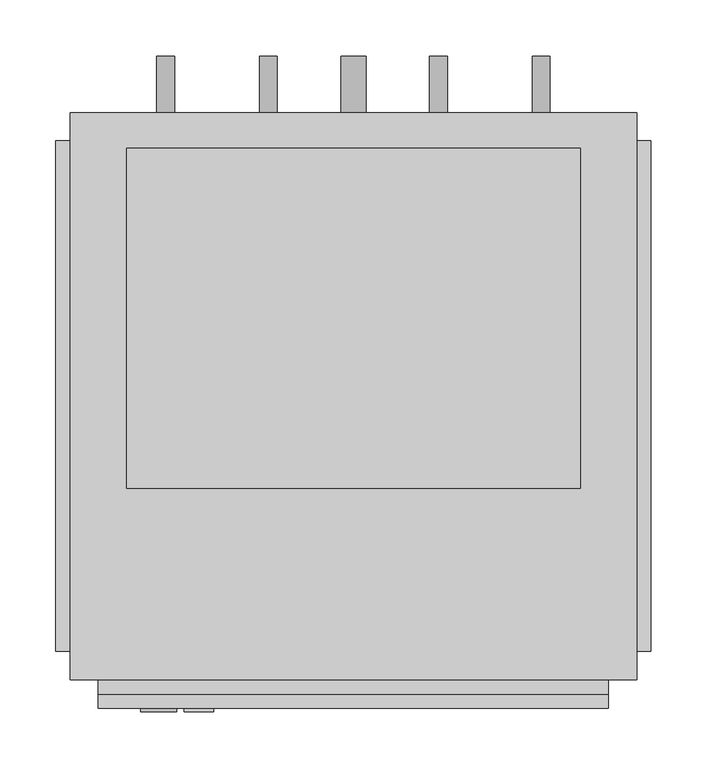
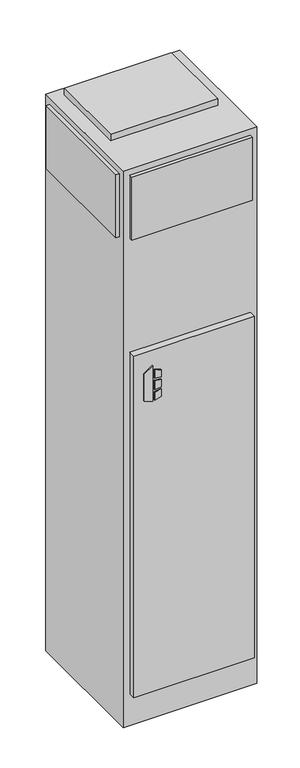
"""IFC4 building model written with IfcOpenShell, lengths in millimetres: proxy geometry, Concealed_Modular_Fan_Coil_Unit_-_MPY_-_IEC_-_4-Pipe_-_NoRisers_2022 : Size 06 - 277v/60Hz/1Ph - 4/1 Coil."""

from ifc_helpers import new_model, si_unit, point, frame, frame_2d, origin, origin_with_axes, place, context, project, spatial, polyline, circle_curve, trimmed, segment, composite_curve, outline, extrude, source, transform, mapped, element, save


def mechanical_equipment_dbb67412(model_context):
    return source(origin(), model_context, "Body", "SweptSolid", [
        extrude(outline(polyline([(1305.3480703, 215.9), (1295.4, 248.0733866), (1437.5709244, 248.0733866), (1414.5489183, 215.9), (1305.3480703, 215.9)])), frame((0.0, -292.1, 0.0), z_axis=(0.0, 1.0, 0.0), x_axis=(0.0, 0.0, 1.0)), (0.0, 0.0, 1.0), 3.175),
        extrude(outline(polyline([(1384.3473557, 254.8317195), (1381.1449632, 280.9131138), (1410.3738042, 280.9131138), (1418.4382193, 254.8317195), (1384.3473557, 254.8317195)])), frame((0.0, -292.1, 0.0), z_axis=(0.0, 1.0, 0.0), x_axis=(0.0, 0.0, 1.0)), (0.0, 0.0, 1.0), 3.175),
        extrude(outline(polyline([(1332.4838288, 280.9131138), (1328.8183279, 254.8317195), (1295.4, 254.8317195), (1304.0342372, 280.9131138), (1332.4838288, 280.9131138)])), frame((0.0, -292.1, 0.0), z_axis=(0.0, 1.0, 0.0), x_axis=(0.0, 0.0, 1.0)), (0.0, 0.0, 1.0), 3.175),
        extrude(outline(polyline([(1371.7989903, 280.9131138), (1374.0808166, 254.8317195), (1338.1432681, 254.8317195), (1340.8845331, 280.9131138), (1371.7989903, 280.9131138)])), frame((0.0, -292.1, 0.0), z_axis=(0.0, 1.0, 0.0), x_axis=(0.0, 0.0, 1.0)), (0.0, 0.0, 1.0), 3.175),
        extrude(outline(composite_curve([segment(trimmed(circle_curve(frame_2d((990.6, 574.675)), 7.9375), [point((990.6, 566.7375))], [point((990.6, 582.6125))], False, "CARTESIAN"), True, "CONTINUOUS"), segment(trimmed(circle_curve(frame_2d((990.6, 574.675)), 7.9375), [point((990.6, 582.6125))], [point((990.6, 566.7375))], False, "CARTESIAN"), True, "CONTINUOUS")], self_intersect=False)), frame((0.0, 244.475, 0.0), z_axis=(0.0, 1.0, 0.0), x_axis=(0.0, 0.0, 1.0)), (0.0, 0.0, 1.0), 50.8),
        extrude(outline(composite_curve([segment(trimmed(circle_curve(frame_2d((990.6, 482.6)), 7.9375), [point((990.6, 474.6625))], [point((990.6, 490.5375))], False, "CARTESIAN"), True, "CONTINUOUS"), segment(trimmed(circle_curve(frame_2d((990.6, 482.6)), 7.9375), [point((990.6, 490.5375))], [point((990.6, 474.6625))], False, "CARTESIAN"), True, "CONTINUOUS")], self_intersect=False)), frame((0.0, 244.475, 0.0), z_axis=(0.0, 1.0, 0.0), x_axis=(0.0, 0.0, 1.0)), (0.0, 0.0, 1.0), 50.8),
        extrude(outline(composite_curve([segment(trimmed(circle_curve(frame_2d((990.6, 330.2)), 7.9375), [point((990.6, 322.2625))], [point((990.6, 338.1375))], False, "CARTESIAN"), True, "CONTINUOUS"), segment(trimmed(circle_curve(frame_2d((990.6, 330.2)), 7.9375), [point((990.6, 338.1375))], [point((990.6, 322.2625))], False, "CARTESIAN"), True, "CONTINUOUS")], self_intersect=False)), frame((0.0, 244.475, 0.0), z_axis=(0.0, 1.0, 0.0), x_axis=(0.0, 0.0, 1.0)), (0.0, 0.0, 1.0), 50.8),
        extrude(outline(composite_curve([segment(trimmed(circle_curve(frame_2d((990.6, 238.125)), 7.9375), [point((990.6, 230.1875))], [point((990.6, 246.0625))], False, "CARTESIAN"), True, "CONTINUOUS"), segment(trimmed(circle_curve(frame_2d((990.6, 238.125)), 7.9375), [point((990.6, 246.0625))], [point((990.6, 230.1875))], False, "CARTESIAN"), True, "CONTINUOUS")], self_intersect=False)), frame((0.0, 244.475, 0.0), z_axis=(0.0, 1.0, 0.0), x_axis=(0.0, 0.0, 1.0)), (0.0, 0.0, 1.0), 50.8),
        extrude(outline(composite_curve([segment(trimmed(circle_curve(frame_2d((76.2, 406.4)), 11.1125), [point((76.2, 395.2875))], [point((76.2, 417.5125))], False, "CARTESIAN"), True, "CONTINUOUS"), segment(trimmed(circle_curve(frame_2d((76.2, 406.4)), 11.1125), [point((76.2, 417.5125))], [point((76.2, 395.2875))], False, "CARTESIAN"), True, "CONTINUOUS")], self_intersect=False)), frame((0.0, 244.475, 0.0), z_axis=(0.0, 1.0, 0.0), x_axis=(0.0, 0.0, 1.0)), (0.0, 0.0, 1.0), 50.8),
        extrude(outline(polyline([(609.6, 212.725), (609.6, -92.075), (203.2, -92.075), (203.2, 212.725), (609.6, 212.725)])), frame((0.0, 0.0, 2235.2), z_axis=(0.0, 0.0, 1.0), x_axis=(1.0, 0.0, 0.0)), (0.0, 0.0, 1.0), 25.4),
        extrude(outline(polyline([(139.7, -238.125), (139.7, 219.075), (152.4, 219.075), (152.4, -238.125), (139.7, -238.125)])), frame((0.0, 0.0, 1955.8), z_axis=(0.0, 0.0, 1.0), x_axis=(1.0, 0.0, 0.0)), (0.0, 0.0, 1.0), 254.0),
        extrude(outline(polyline([(673.1, 219.075), (673.1, -238.125), (660.4, -238.125), (660.4, 219.075), (673.1, 219.075)])), frame((0.0, 0.0, 1955.8), z_axis=(0.0, 0.0, 1.0), x_axis=(1.0, 0.0, 0.0)), (0.0, 0.0, 1.0), 254.0),
        extrude(outline(polyline([(635.0, -276.225), (177.8, -276.225), (177.8, -263.525), (635.0, -263.525), (635.0, -276.225)])), frame((0.0, 0.0, 1955.8), z_axis=(0.0, 0.0, 1.0), x_axis=(1.0, 0.0, 0.0)), (0.0, 0.0, 1.0), 254.0),
        extrude(outline(polyline([(635.0, -288.925), (177.8, -288.925), (177.8, -263.525), (635.0, -263.525), (635.0, -288.925)])), frame((0.0, 0.0, 127.0), z_axis=(0.0, 0.0, 1.0), x_axis=(1.0, 0.0, 0.0)), (0.0, 0.0, 1.0), 1371.6),
        extrude(outline(polyline([(660.4, 244.475), (660.4, -263.525), (152.4, -263.525), (152.4, 244.475), (660.4, 244.475)])), origin_with_axes(), (0.0, 0.0, 1.0), 2235.2),
    ])


if __name__ == "__main__":
    model = new_model("IFC4")
    model_context = context("Model", 3, world=origin())
    ifc_project = project(units=[si_unit("LENGTHUNIT", "METRE", prefix="MILLI")], contexts=[model_context])
    site = spatial("IfcSite", under=ifc_project)
    building = spatial("IfcBuilding", under=site)
    placement = place(None, origin())
    mechanical_equipment_shape = mechanical_equipment_dbb67412(model_context)
    element("IfcBuildingElementProxy", 1, Name="Concealed_Modular_Fan_Coil_Unit_-_MPY_-_IEC_-_4-Pipe_-_NoRisers_2022 : Size 06 - 277v/60Hz/1Ph - 4/1 Coil", ObjectType="Concealed_Modular_Fan_Coil_Unit_-_MPY_-_IEC_-_4-Pipe_-_NoRisers_2022 : Size 06 - 277v/60Hz/1Ph - 4/1 Coil", at=placement, inside=building, context=model_context, shape_type="MappedRepresentation", body=[
        mapped(mechanical_equipment_shape, transform((0.0, 0.0, 0.0), x_axis=(1.0, 0.0, 0.0), y_axis=(0.0, 1.0, 0.0), z_axis=(0.0, 0.0, 1.0))),
    ])
    save(model, "model.ifc")
